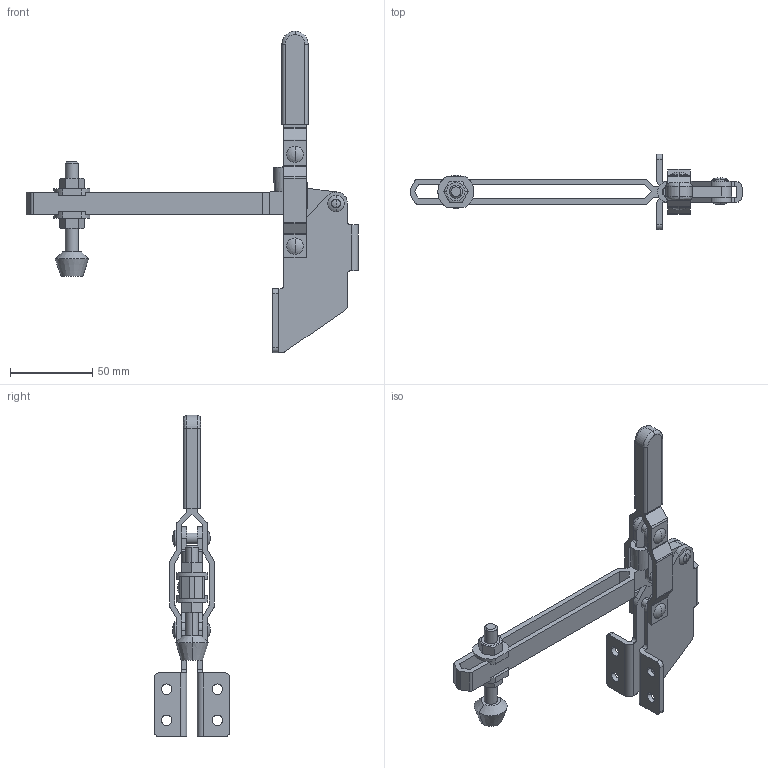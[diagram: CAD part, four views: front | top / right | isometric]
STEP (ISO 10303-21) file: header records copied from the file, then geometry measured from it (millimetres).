
FILE_DESCRIPTION(('CATIA V5 STEP Exchange'),'2;1');
FILE_NAME('D:\Model\toggle\toggle_standard\KJF_018_13A.stp','2005-06-24T04:57:57+00:00',('none'),('none'),'CATIA Version 5 Release 11 (IN-9)','CATIA V5 STEP AP203',' none');
FILE_SCHEMA(('CONFIG_CONTROL_DESIGN'));
Length unit declared in the file: millimetre
Products named in the file (1): Part1
Bounding box: 202.4 x 46 x 196 mm (x, y, z)
Volume: 74612.9 mm3; surface area: 50391.2 mm2
Topology: 13 solids, 13 shells, 307 faces, 821 edges, 534 vertices
Faces by surface type: plane 137, cylinder 132, sphere 24, cone 6, bspline 4, torus 4
Entity records: 9507 total; most frequent: CARTESIAN_POINT 2129, ORIENTED_EDGE 1610, DIRECTION 1261, EDGE_CURVE 805, AXIS2_PLACEMENT_3D 566, VERTEX_POINT 534, VECTOR 449, LINE 449
